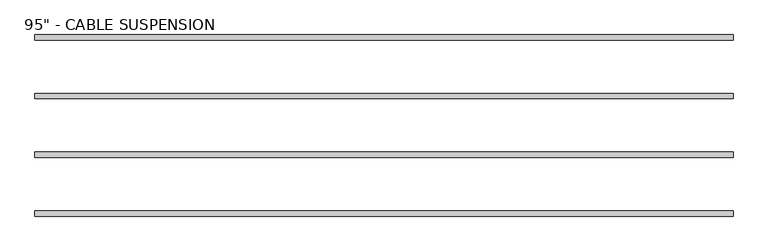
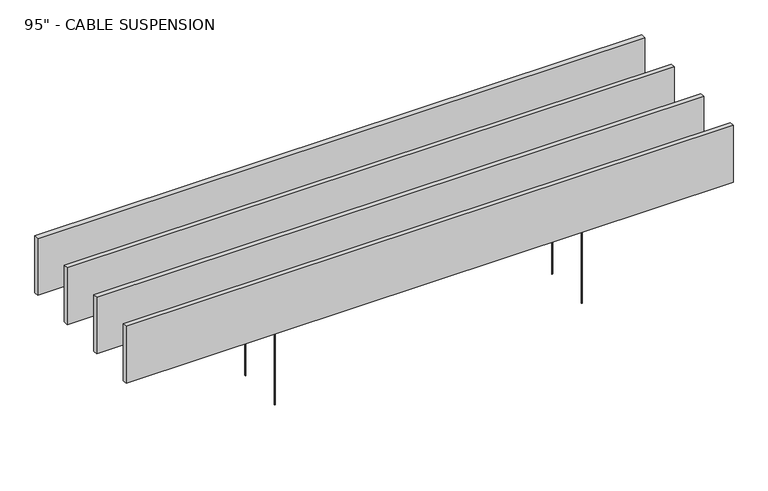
"""IFC4 building model written with IfcOpenShell, lengths in millimetres: proxy geometry."""

from ifc_helpers import new_model, si_unit, point, frame, frame_2d, origin, origin_with_axes, place, context, project, spatial, polyline, circle_curve, trimmed, segment, composite_curve, outline, extrude, source, transform, mapped, element, save


def proxy_471073de(model_context):
    return source(origin(), model_context, "Body", "SweptSolid", [
        extrude(outline(composite_curve([segment(trimmed(circle_curve(frame_2d((-609.6, 609.6)), 1.5400297), [point((-611.1400297, 609.6))], [point((-608.0599703, 609.6))], False, "CARTESIAN"), True, "CONTINUOUS"), segment(trimmed(circle_curve(frame_2d((-609.6, 609.6)), 1.5400297), [point((-608.0599703, 609.6))], [point((-611.1400297, 609.6))], False, "CARTESIAN"), True, "CONTINUOUS")], self_intersect=False)), origin_with_axes(), (0.0, 0.0, 1.0), 313.53125),
        extrude(outline(composite_curve([segment(trimmed(circle_curve(frame_2d((609.6, 609.6)), 1.5400297), [point((608.0599703, 609.6))], [point((611.1400297, 609.6))], False, "CARTESIAN"), True, "CONTINUOUS"), segment(trimmed(circle_curve(frame_2d((609.6, 609.6)), 1.5400297), [point((611.1400297, 609.6))], [point((608.0599703, 609.6))], False, "CARTESIAN"), True, "CONTINUOUS")], self_intersect=False)), origin_with_axes(), (0.0, 0.0, 1.0), 313.53125),
        extrude(outline(polyline([(-1206.5, 600.59951), (-1206.5, 618.60049), (1206.5, 618.60049), (1206.5, 600.59951), (-1206.5, 600.59951)])), frame((0.0, 0.0, 304.8), z_axis=(0.0, 0.0, 1.0), x_axis=(1.0, 0.0, 0.0)), (0.0, 0.0, 1.0), 238.125),
        extrude(outline(composite_curve([segment(trimmed(circle_curve(frame_2d((-609.6, 406.4)), 1.5400297), [point((-611.1400297, 406.4))], [point((-608.0599703, 406.4))], False, "CARTESIAN"), True, "CONTINUOUS"), segment(trimmed(circle_curve(frame_2d((-609.6, 406.4)), 1.5400297), [point((-608.0599703, 406.4))], [point((-611.1400297, 406.4))], False, "CARTESIAN"), True, "CONTINUOUS")], self_intersect=False)), origin_with_axes(), (0.0, 0.0, 1.0), 313.53125),
        extrude(outline(composite_curve([segment(trimmed(circle_curve(frame_2d((609.6, 406.4)), 1.5400297), [point((608.0599703, 406.4))], [point((611.1400297, 406.4))], False, "CARTESIAN"), True, "CONTINUOUS"), segment(trimmed(circle_curve(frame_2d((609.6, 406.4)), 1.5400297), [point((611.1400297, 406.4))], [point((608.0599703, 406.4))], False, "CARTESIAN"), True, "CONTINUOUS")], self_intersect=False)), origin_with_axes(), (0.0, 0.0, 1.0), 313.53125),
        extrude(outline(polyline([(-1206.5, 397.39951), (-1206.5, 415.40049), (1206.5, 415.40049), (1206.5, 397.39951), (-1206.5, 397.39951)])), frame((0.0, 0.0, 304.8), z_axis=(0.0, 0.0, 1.0), x_axis=(1.0, 0.0, 0.0)), (0.0, 0.0, 1.0), 238.125),
        extrude(outline(composite_curve([segment(trimmed(circle_curve(frame_2d((-609.6, 203.2)), 1.5400297), [point((-611.1400297, 203.2))], [point((-608.0599703, 203.2))], False, "CARTESIAN"), True, "CONTINUOUS"), segment(trimmed(circle_curve(frame_2d((-609.6, 203.2)), 1.5400297), [point((-608.0599703, 203.2))], [point((-611.1400297, 203.2))], False, "CARTESIAN"), True, "CONTINUOUS")], self_intersect=False)), origin_with_axes(), (0.0, 0.0, 1.0), 313.53125),
        extrude(outline(composite_curve([segment(trimmed(circle_curve(frame_2d((609.6, 203.2)), 1.5400297), [point((608.0599703, 203.2))], [point((611.1400297, 203.2))], False, "CARTESIAN"), True, "CONTINUOUS"), segment(trimmed(circle_curve(frame_2d((609.6, 203.2)), 1.5400297), [point((611.1400297, 203.2))], [point((608.0599703, 203.2))], False, "CARTESIAN"), True, "CONTINUOUS")], self_intersect=False)), origin_with_axes(), (0.0, 0.0, 1.0), 313.53125),
        extrude(outline(polyline([(-1206.5, 194.19951), (-1206.5, 212.20049), (1206.5, 212.20049), (1206.5, 194.19951), (-1206.5, 194.19951)])), frame((0.0, 0.0, 304.8), z_axis=(0.0, 0.0, 1.0), x_axis=(1.0, 0.0, 0.0)), (0.0, 0.0, 1.0), 238.125),
        extrude(outline(composite_curve([segment(trimmed(circle_curve(frame_2d((-609.6, 0.0)), 1.5400297), [point((-611.1400297, 0.0))], [point((-608.0599703, 0.0))], False, "CARTESIAN"), True, "CONTINUOUS"), segment(trimmed(circle_curve(frame_2d((-609.6, 0.0)), 1.5400297), [point((-608.0599703, 0.0))], [point((-611.1400297, 0.0))], False, "CARTESIAN"), True, "CONTINUOUS")], self_intersect=False)), origin_with_axes(), (0.0, 0.0, 1.0), 313.53125),
        extrude(outline(composite_curve([segment(trimmed(circle_curve(frame_2d((609.6, 0.0)), 1.5400297), [point((608.0599703, 0.0))], [point((611.1400297, 0.0))], False, "CARTESIAN"), True, "CONTINUOUS"), segment(trimmed(circle_curve(frame_2d((609.6, 0.0)), 1.5400297), [point((611.1400297, 0.0))], [point((608.0599703, 0.0))], False, "CARTESIAN"), True, "CONTINUOUS")], self_intersect=False)), origin_with_axes(), (0.0, 0.0, 1.0), 313.53125),
        extrude(outline(polyline([(-1206.5, -9.00049), (-1206.5, 9.00049), (1206.5, 9.00049), (1206.5, -9.00049), (-1206.5, -9.00049)])), frame((0.0, 0.0, 304.8), z_axis=(0.0, 0.0, 1.0), x_axis=(1.0, 0.0, 0.0)), (0.0, 0.0, 1.0), 238.125),
    ])


if __name__ == "__main__":
    model = new_model("IFC4")
    model_context = context("Model", 3, world=origin())
    ifc_project = project(units=[si_unit("LENGTHUNIT", "METRE", prefix="MILLI")], contexts=[model_context])
    site = spatial("IfcSite", under=ifc_project)
    building = spatial("IfcBuilding", under=site)
    placement = place(None, origin())
    proxy_shape = proxy_471073de(model_context)
    element("IfcBuildingElementProxy", 1, Name="SE_TIMBER BAFFLE_MULTI-SYSTEM_FB_TURF : 95\" - CABLE SUSPENSION", ObjectType="SE_TIMBER BAFFLE_MULTI-SYSTEM_FB_TURF : 95\" - CABLE SUSPENSION", at=placement, inside=building, context=model_context, shape_type="MappedRepresentation", body=[
        mapped(proxy_shape, transform((0.0, 0.0, 0.0), x_axis=(1.0, 0.0, 0.0), y_axis=(0.0, 1.0, 0.0), z_axis=(0.0, 0.0, 1.0))),
    ])
    save(model, "model.ifc")
